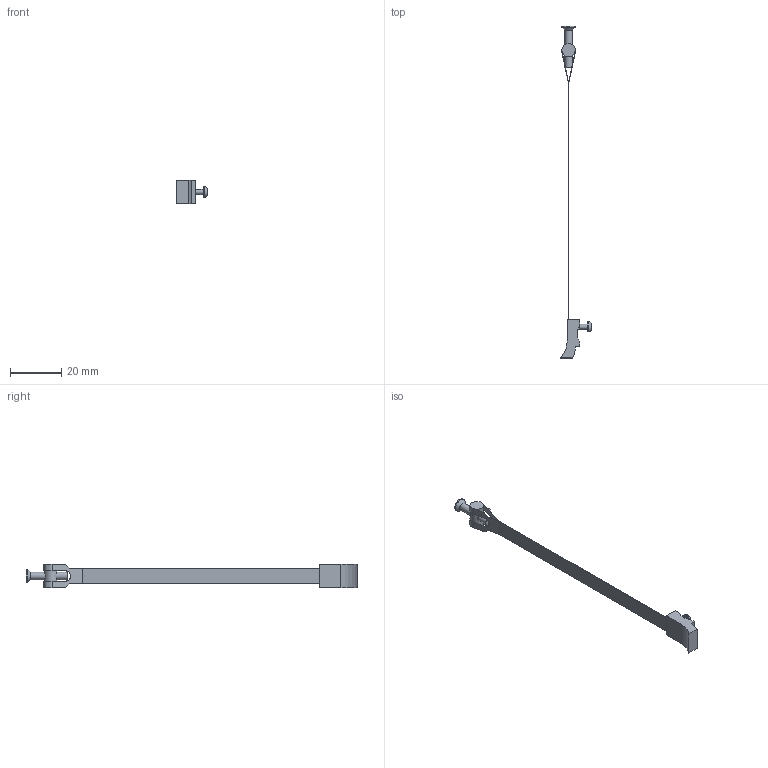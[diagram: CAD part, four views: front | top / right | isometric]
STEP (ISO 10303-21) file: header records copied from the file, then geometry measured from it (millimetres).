
FILE_DESCRIPTION( ( 'STEP AP214' ), '1' );
FILE_NAME( 'C:/Users/emc02044/Desktop/气缸辅件/PAB-A32-PAB.stp', '2026-08-20T06:21:19', ( 'License CC BY-ND 4.0' ), ( 'CADENAS' ), ' ', 'PARTsolutions', ' ' );
FILE_SCHEMA( ( 'AUTOMOTIVE_DESIGN { 1 0 10303 214 1 1 1 1 }' ) );
Length unit declared in the file: millimetre
Products named in the file (1): _PAB-A32-PAB
Bounding box: 11.9 x 129.53 x 9.2 mm (x, y, z)
Volume: 1050.6 mm3; surface area: 2357.2 mm2
Topology: 1 solids, 1 shells, 44 faces, 127 edges, 83 vertices
Faces by surface type: plane 28, cylinder 14, torus 1, cone 1
Full cylindrical faces by diameter (mm): 2 x1, 3 x2, 4 x1, 5 x1, 5.2 x1
Entity records: 1882 total; most frequent: CARTESIAN_POINT 362, ORIENTED_EDGE 236, DIRECTION 234, EDGE_CURVE 118, LINE 86, VECTOR 86, VERTEX_POINT 82, AXIS2_PLACEMENT_3D 74
